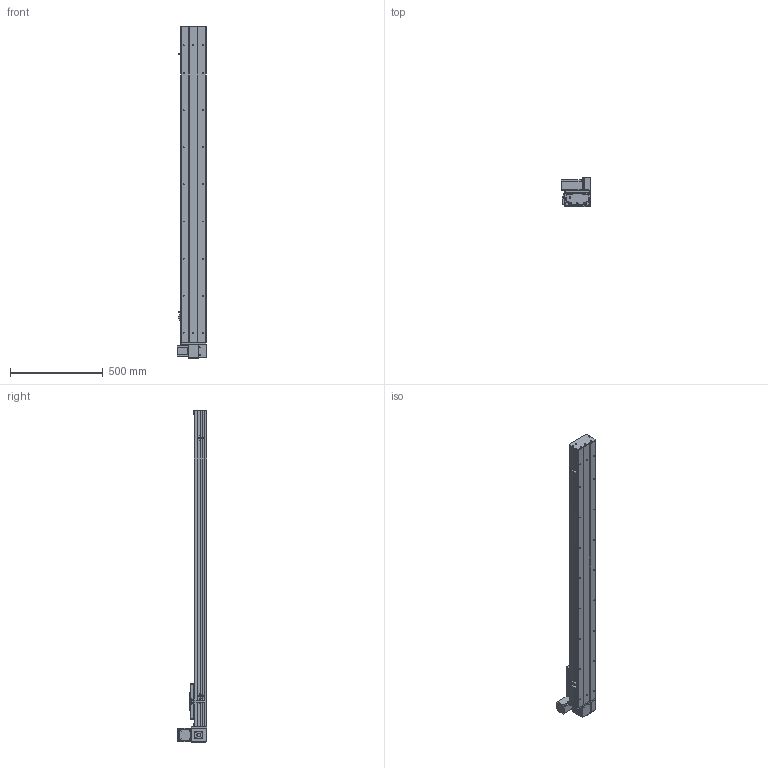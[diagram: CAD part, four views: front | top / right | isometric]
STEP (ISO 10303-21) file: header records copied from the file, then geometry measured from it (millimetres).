
FILE_DESCRIPTION (( 'STEP AP203' ), '1' );
FILE_NAME ('Y135CB-D90-S1400-UL-P400W.STEP', '2020-02-18T07:31:43', ( '微软用户' ), ( '微软中国' ), 'SwSTEP 2.0', 'SolidWorks 2017', '' );
FILE_SCHEMA (( 'CONFIG_CONTROL_DESIGN' ));
Length unit declared in the file: millimetre
Products named in the file (18): san松下电机400不带刹车----; C-雄赽釱--; 5CB --掛极耜裔啣-; Y10B-耜蚾蟀諉啣----; 00B-俋欶BM--; Y135CB-耜裔; Y10B--々湍喘謫眊--666; 135CB---遴掛极.-; C-詩湍揤踡え-陔; Y135CB-D90-S1400-UL-P400W; 35CB---喘謫眊楊擘啣; 135CB--詩湍-CE; 0B-埴倛裔啣; Y100-135俋离換覜ん--; 0B-源倛裔啣; Y135C-陔俋离換覜結え-; 0B-萇儂楊擘啣; 5C--俋欶
Assembly tree (21 placements, depth 2):
  Y135CB-D90-S1400-UL-P400W
    Y135CB-耜裔
    135CB---遴掛极.-
    35CB---喘謫眊楊擘啣
    0B-埴倛裔啣
    0B-源倛裔啣
    0B-萇儂楊擘啣
    san松下电机400不带刹车----
    5CB --掛极耜裔啣-  x2
    C-詩湍揤踡え-陔  x2
    135CB--詩湍-CE
    Y100-135俋离換覜ん--  x3
    Y135C-陔俋离換覜結え-
    5C--俋欶
    C-雄赽釱--
    Y10B-耜蚾蟀諉啣----
    00B-俋欶BM--
    Y10B--々湍喘謫眊--666
Bounding box: 157 x 158.7 x 1788 mm (x, y, z)
Volume: 5425217.2 mm3; surface area: 2133228.9 mm2
Topology: 21 solids, 21 shells, 953 faces, 2563 edges, 1698 vertices
Faces by surface type: cylinder 481, plane 456, cone 16
Entity records: 29753 total; most frequent: DIRECTION 4943, CARTESIAN_POINT 4900, ORIENTED_EDGE 4602, EDGE_CURVE 2301, AXIS2_PLACEMENT_3D 1805, VERTEX_POINT 1526, VECTOR 1333, LINE 1333
